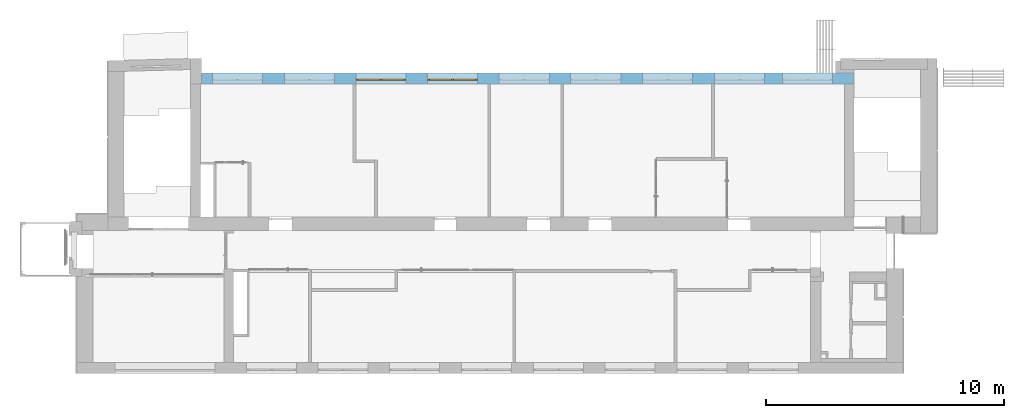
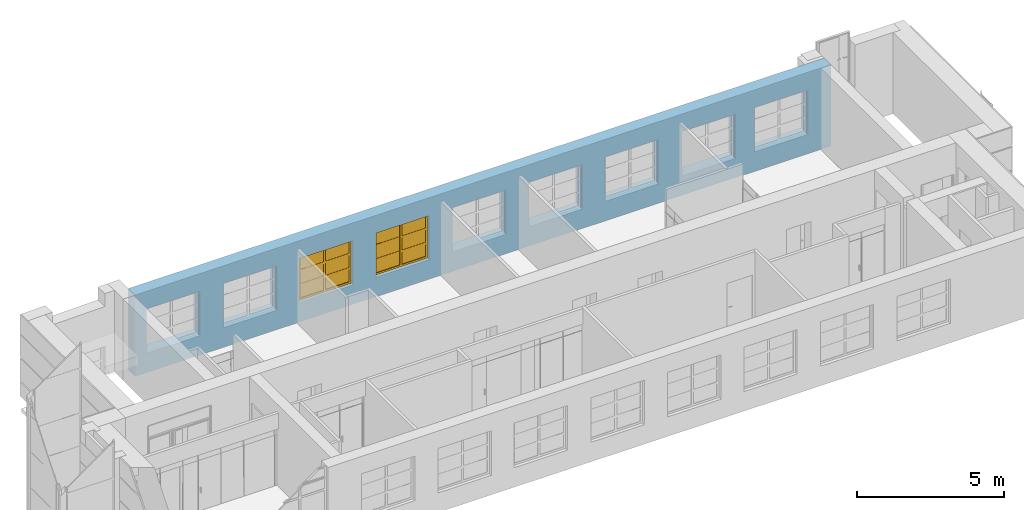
# One storey, part 52 of 66: 2 windows, 9 openings, plus 1 element that does not belong to this part.
"""IFC2X3 building model written with IfcOpenShell, lengths in millimetres."""

from ifc_helpers import new_model, entity, si_unit, converted_unit, derived_unit, direction, frame, frame_2d, origin, origin_2d_with_axis, place, context, subcontext, project, spatial, rectangle, extrude, face_set, surface_model, source, transform, mapped, material, material_list, layer, layer_set, layer_usage, type_object, type_shapes, element, fill, save


model = new_model("IFC2X3")

# Units and contexts
model_context = context("Model", 3, precision=0.01, world=origin(), true_north=direction((6.12303176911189e-17, 1.0)))
body_context = subcontext(model_context, "Body", "Model", "MODEL_VIEW")
ifc_project = project(units=[si_unit("LENGTHUNIT", "METRE", prefix="MILLI"), si_unit("AREAUNIT", "SQUARE_METRE"), si_unit("VOLUMEUNIT", "CUBIC_METRE"), converted_unit("PLANEANGLEUNIT", "DEGREE", entity("IfcRatioMeasure", 0.0174532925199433), si_unit("PLANEANGLEUNIT", "RADIAN"), dimensions=[0, 0, 0, 0, 0, 0, 0]), si_unit("MASSUNIT", "GRAM", prefix="KILO"), derived_unit("MASSDENSITYUNIT", [(si_unit("MASSUNIT", "GRAM", prefix="KILO"), 1), (si_unit("LENGTHUNIT", "METRE"), -3)]), si_unit("TIMEUNIT", "SECOND"), si_unit("FREQUENCYUNIT", "HERTZ"), si_unit("THERMODYNAMICTEMPERATUREUNIT", "DEGREE_CELSIUS"), derived_unit("THERMALTRANSMITTANCEUNIT", [(si_unit("MASSUNIT", "GRAM", prefix="KILO"), 1), (si_unit("THERMODYNAMICTEMPERATUREUNIT", "KELVIN"), -1), (si_unit("TIMEUNIT", "SECOND"), -3)]), derived_unit("VOLUMETRICFLOWRATEUNIT", [(si_unit("LENGTHUNIT", "METRE"), 3), (si_unit("TIMEUNIT", "SECOND"), -1)]), si_unit("ELECTRICCURRENTUNIT", "AMPERE"), si_unit("ELECTRICVOLTAGEUNIT", "VOLT"), si_unit("POWERUNIT", "WATT"), si_unit("FORCEUNIT", "NEWTON", prefix="KILO"), si_unit("ILLUMINANCEUNIT", "LUX"), si_unit("LUMINOUSFLUXUNIT", "LUMEN"), si_unit("LUMINOUSINTENSITYUNIT", "CANDELA"), derived_unit("USERDEFINED", [(si_unit("MASSUNIT", "GRAM", prefix="KILO"), -1), (si_unit("LENGTHUNIT", "METRE"), -2), (si_unit("TIMEUNIT", "SECOND"), 3), (si_unit("LUMINOUSFLUXUNIT", "LUMEN"), 1)]), derived_unit("LINEARVELOCITYUNIT", [(si_unit("LENGTHUNIT", "METRE"), 1), (si_unit("TIMEUNIT", "SECOND"), -1)]), si_unit("PRESSUREUNIT", "PASCAL"), derived_unit("USERDEFINED", [(si_unit("LENGTHUNIT", "METRE"), -2), (si_unit("MASSUNIT", "GRAM", prefix="KILO"), 1), (si_unit("TIMEUNIT", "SECOND"), -2)])], contexts=[model_context])

# Site, building, storey
site_placement = place(None, frame((-151.875543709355, 2715.0, 0.0)))
site = spatial("IfcSite", under=ifc_project, at=site_placement, Name="Surface", CompositionType="ELEMENT")
building_placement = place(site_placement, origin())
building = spatial("IfcBuilding", under=site, at=building_placement, CompositionType="ELEMENT")
storey_placement = place(building_placement, frame((0.0, 0.0, 3350.0)))
storey = spatial("IfcBuildingStorey", under=building, at=storey_placement, Name="2 korrus", CompositionType="ELEMENT", Elevation=3350.00000000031)

# Wall, openings, windows
ifc_material_1 = material(Name="Brick, Common")
ifc_layer_1 = layer(ifc_material_1, 440.0)
ifc_material_2 = material(Name="__Kips GN13_tava")
ifc_layer_2 = layer(ifc_material_2, 20.0)
ifc_layer_set = layer_set([ifc_layer_1, ifc_layer_2], Name="Basic Wall:VS-1")
ifc_layer_usage = layer_usage(ifc_layer_set, "AXIS2", "POSITIVE", -230.0)
wall_type = type_object("IfcWallType", Name="Basic Wall:VS-1", PredefinedType="STANDARD", material=ifc_layer_set)
wall_placement = place(storey_placement, frame((32372.6162682, 12380.0, 0.0), z_axis=(0.0, 0.0, 1.0), x_axis=(-1.0, 0.0, 0.0)))
wall = element("IfcWallStandardCase", 1, at=wall_placement, inside=storey, type_object=wall_type, material=ifc_layer_usage, Name="SEIN - 005", ObjectType="Basic Wall:VS-1", context=body_context, shape_type="SweptSolid", body=[
    extrude(rectangle(XDim=27372.5418693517, YDim=459.999999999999, at=frame_2d((13686.2709346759, 0.0), x_axis=(-1.0, 0.0))), origin(), (0.0, 0.0, 1.0), 3380.43203354),
])
opening_1_placement = place(wall_placement, frame((32372.6162682, 12380.0, 0.0), z_axis=(0.0, 0.0, 1.0), x_axis=(-1.0, 0.0, 0.0)))
element("IfcOpeningElement", 2, at=opening_1_placement, cuts=wall, Name="SEIN - 005", ObjectType="Opening", context=body_context, shape_type="SweptSolid", body=[
    extrude(rectangle(XDim=1850.0, YDim=2100.0, at=frame_2d((0.0, -5.6843418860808e-13), x_axis=(1.0, 0.0))), frame((6512.84935535, 13077.9, 1725.0), z_axis=(0.0, -1.0, 0.0), x_axis=(0.0, 0.0, 1.0)), (0.0, 0.0, 1.0), 1393.8),
])
opening_2_placement = place(wall_placement, frame((32372.6162682, 12380.0, 0.0), z_axis=(0.0, 0.0, 1.0), x_axis=(-1.0, 0.0, 0.0)))
element("IfcOpeningElement", 3, at=opening_2_placement, cuts=wall, Name="SEIN - 005", ObjectType="Opening", context=body_context, shape_type="SweptSolid", body=[
    extrude(rectangle(XDim=1850.0, YDim=2100.0, at=frame_2d((0.0, -1.02318153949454e-12), x_axis=(1.0, 0.0))), frame((9532.84935535, 13077.9, 1725.0), z_axis=(0.0, -1.0, 0.0), x_axis=(0.0, 0.0, 1.0)), (0.0, 0.0, 1.0), 1393.8),
])
opening_3_placement = place(wall_placement, frame((32372.6162682, 12380.0, 0.0), z_axis=(0.0, 0.0, 1.0), x_axis=(-1.0, 0.0, 0.0)))
opening_3 = element("IfcOpeningElement", 4, at=opening_3_placement, cuts=wall, Name="SEIN - 005", ObjectType="Opening", context=body_context, shape_type="SweptSolid", body=[
    extrude(rectangle(XDim=1850.0, YDim=2100.0, at=origin_2d_with_axis()), frame((12532.84935535, 13077.9, 1725.0), z_axis=(0.0, -1.0, 0.0), x_axis=(0.0, 0.0, 1.0)), (0.0, 0.0, 1.0), 1393.8),
])
opening_4_placement = place(wall_placement, frame((32372.6162682, 12380.0, 0.0), z_axis=(0.0, 0.0, 1.0), x_axis=(-1.0, 0.0, 0.0)))
opening_4 = element("IfcOpeningElement", 5, at=opening_4_placement, cuts=wall, Name="SEIN - 005", ObjectType="Opening", context=body_context, shape_type="SweptSolid", body=[
    extrude(rectangle(XDim=1850.0, YDim=2100.0, at=origin_2d_with_axis()), frame((15532.84935531, 13077.9, 1725.0), z_axis=(0.0, -1.0, 0.0), x_axis=(0.0, 0.0, 1.0)), (0.0, 0.0, 1.0), 1393.8),
])
opening_5_placement = place(wall_placement, frame((32372.6162682, 12380.0, 0.0), z_axis=(0.0, 0.0, 1.0), x_axis=(-1.0, 0.0, 0.0)))
element("IfcOpeningElement", 6, at=opening_5_placement, cuts=wall, Name="SEIN - 005", ObjectType="Opening", context=body_context, shape_type="SweptSolid", body=[
    extrude(rectangle(XDim=1850.0, YDim=2100.0, at=origin_2d_with_axis()), frame((18542.84935531, 13077.9, 1725.0), z_axis=(0.0, -1.0, 0.0), x_axis=(0.0, 0.0, 1.0)), (0.0, 0.0, 1.0), 1393.8),
])
opening_6_placement = place(wall_placement, frame((32372.6162682, 12380.0, 0.0), z_axis=(0.0, 0.0, 1.0), x_axis=(-1.0, 0.0, 0.0)))
element("IfcOpeningElement", 7, at=opening_6_placement, cuts=wall, Name="SEIN - 005", ObjectType="Opening", context=body_context, shape_type="SweptSolid", body=[
    extrude(rectangle(XDim=1850.0, YDim=2100.0, at=origin_2d_with_axis()), frame((21543.05309771, 13077.9, 1725.0), z_axis=(0.0, -1.0, 0.0), x_axis=(0.0, 0.0, 1.0)), (0.0, 0.0, 1.0), 1393.8),
])
opening_7_placement = place(wall_placement, frame((32372.6162682, 12380.0, 0.0), z_axis=(0.0, 0.0, 1.0), x_axis=(-1.0, 0.0, 0.0)))
element("IfcOpeningElement", 8, at=opening_7_placement, cuts=wall, Name="SEIN - 005", ObjectType="Opening", context=body_context, shape_type="SweptSolid", body=[
    extrude(rectangle(XDim=1850.0, YDim=2100.0, at=origin_2d_with_axis()), frame((24543.05309771, 13077.9, 1725.0), z_axis=(0.0, -1.0, 0.0), x_axis=(0.0, 0.0, 1.0)), (0.0, 0.0, 1.0), 1393.8),
])
opening_8_placement = place(wall_placement, frame((32372.6162682, 12380.0, 0.0), z_axis=(0.0, 0.0, 1.0), x_axis=(-1.0, 0.0, 0.0)))
element("IfcOpeningElement", 9, at=opening_8_placement, cuts=wall, Name="SEIN - 005", ObjectType="Opening", context=body_context, shape_type="SweptSolid", body=[
    extrude(rectangle(XDim=1850.0, YDim=2100.0, at=frame_2d((0.0, 4.32009983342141e-12), x_axis=(1.0, 0.0))), frame((27563.05309771, 13077.9, 1725.0), z_axis=(0.0, -1.0, 0.0), x_axis=(0.0, 0.0, 1.0)), (0.0, 0.0, 1.0), 1393.8),
])
opening_9_placement = place(wall_placement, frame((32372.6162682, 12380.0, 0.0), z_axis=(0.0, 0.0, 1.0), x_axis=(-1.0, 0.0, 0.0)))
element("IfcOpeningElement", 10, at=opening_9_placement, cuts=wall, Name="SEIN - 005", ObjectType="Opening", context=body_context, shape_type="SweptSolid", body=[
    extrude(rectangle(XDim=1850.0, YDim=2100.0, at=origin_2d_with_axis()), frame((30412.57293081, 13077.9, 1725.0), z_axis=(0.0, -1.0, 0.0), x_axis=(0.0, 0.0, 1.0)), (0.0, 0.0, 1.0), 1393.8),
])
ifc_material_3 = material(Name="Paint - Titanium White")
ifc_material_4 = material(Name="Paint - Dark Gray")
ifc_material_5 = material(Name="Glass - Clear Fast")
ifc_material_list_1 = material_list([ifc_material_3, ifc_material_4, ifc_material_5])
ifc_material_list_2 = material_list([ifc_material_3, ifc_material_4, ifc_material_5])
window_style = type_object("IfcWindowStyle", Name="Aken_1850x2100", ConstructionType="NOTDEFINED", OperationType="DOUBLE_PANEL_VERTICAL", ParameterTakesPrecedence=False, Sizeable=False, material=ifc_material_list_2)
shared_shape = source(origin(), body_context, "Body", "SurfaceModel", [
    surface_model("IfcFaceBasedSurfaceModel", [(80.0, -665.9, 1770.0), (80.0, -620.9, 1770.0), (0.0, -620.9, 1770.0), (0.0, -665.9, 1770.0), (80.0, -665.9, 80.0), (80.0, -620.9, 80.0), (80.0, -620.9, 1770.0), (80.0, -665.9, 1770.0), (80.0, -620.9, 1770.0), (80.0, -620.9, 80.0), (0.0, -620.9, 80.0), (0.0, -620.9, 1770.0), (0.0, -665.9, 1770.0), (0.0, -620.9, 1770.0), (0.0, -620.9, 80.0), (0.0, -665.9, 80.0), (80.0, -665.9, 1770.0), (0.0, -665.9, 1770.0), (0.0, -665.9, 80.0), (80.0, -665.9, 80.0), (0.0, -665.9, 80.0), (0.0, -620.9, 80.0), (80.0, -620.9, 80.0), (80.0, -665.9, 80.0), (2020.0, -665.9, 80.0), (2020.0, -620.9, 80.0), (2100.0, -620.9, 80.0), (2100.0, -665.9, 80.0), (2020.0, -665.9, 1770.0), (2020.0, -620.9, 1770.0), (2020.0, -620.9, 80.0), (2020.0, -665.9, 80.0), (2020.0, -620.9, 80.0), (2020.0, -620.9, 1770.0), (2100.0, -620.9, 1770.0), (2100.0, -620.9, 80.0), (2100.0, -665.9, 80.0), (2100.0, -620.9, 80.0), (2100.0, -620.9, 1770.0), (2100.0, -665.9, 1770.0), (2020.0, -665.9, 80.0), (2100.0, -665.9, 80.0), (2100.0, -665.9, 1770.0), (2020.0, -665.9, 1770.0), (2100.0, -665.9, 1770.0), (2100.0, -620.9, 1770.0), (2020.0, -620.9, 1770.0), (2020.0, -665.9, 1770.0), (1010.0, -665.9, 80.0), (1010.0, -620.9, 80.0), (1090.0, -620.9, 80.0), (1090.0, -665.9, 80.0), (1010.0, -665.9, 1770.0), (1010.0, -620.9, 1770.0), (1010.0, -620.9, 80.0), (1010.0, -665.9, 80.0), (1010.0, -620.9, 80.0), (1010.0, -620.9, 1770.0), (1090.0, -620.9, 1770.0), (1090.0, -620.9, 80.0), (1090.0, -665.9, 80.0), (1090.0, -620.9, 80.0), (1090.0, -620.9, 1770.0), (1090.0, -665.9, 1770.0), (1010.0, -665.9, 80.0), (1090.0, -665.9, 80.0), (1090.0, -665.9, 1770.0), (1010.0, -665.9, 1770.0), (1090.0, -665.9, 1770.0), (1090.0, -620.9, 1770.0), (1010.0, -620.9, 1770.0), (1010.0, -665.9, 1770.0), (80.0, -665.9, 80.0), (80.0, -620.9, 80.0), (0.0, -620.9, 80.0), (0.0, -665.9, 80.0), (1010.0, -665.9, 80.0), (1010.0, -620.9, 80.0), (80.0, -620.9, 80.0), (80.0, -665.9, 80.0), (80.0, -620.9, 80.0), (1010.0, -620.9, 80.0), (1090.0, -620.9, 80.0), (2020.0, -620.9, 80.0), (2100.0, -620.9, 80.0), (2100.0, -620.9, 0.0), (0.0, -620.9, 0.0), (0.0, -620.9, 80.0), (0.0, -665.9, 80.0), (0.0, -620.9, 80.0), (0.0, -620.9, 0.0), (0.0, -665.9, 0.0), (80.0, -665.9, 80.0), (0.0, -665.9, 80.0), (0.0, -665.9, 0.0), (2100.0, -665.9, 0.0), (2100.0, -665.9, 80.0), (2020.0, -665.9, 80.0), (1090.0, -665.9, 80.0), (1010.0, -665.9, 80.0), (1090.0, -665.9, 80.0), (1090.0, -620.9, 80.0), (1010.0, -620.9, 80.0), (1010.0, -665.9, 80.0), (2020.0, -665.9, 80.0), (2020.0, -620.9, 80.0), (1090.0, -620.9, 80.0), (1090.0, -665.9, 80.0), (2100.0, -665.9, 80.0), (2100.0, -620.9, 80.0), (2020.0, -620.9, 80.0), (2020.0, -665.9, 80.0), (2100.0, -665.9, 0.0), (2100.0, -620.9, 0.0), (2100.0, -620.9, 80.0), (2100.0, -665.9, 80.0), (0.0, -665.9, 0.0), (0.0, -620.9, 0.0), (2100.0, -620.9, 0.0), (2100.0, -665.9, 0.0), (1010.0, -665.9, 1770.0), (1010.0, -620.9, 1770.0), (1090.0, -620.9, 1770.0), (1090.0, -665.9, 1770.0), (80.0, -665.9, 1770.0), (80.0, -620.9, 1770.0), (1010.0, -620.9, 1770.0), (1010.0, -665.9, 1770.0), (1010.0, -620.9, 1770.0), (80.0, -620.9, 1770.0), (0.0, -620.9, 1770.0), (0.0, -620.9, 1850.0), (2100.0, -620.9, 1850.0), (2100.0, -620.9, 1770.0), (2020.0, -620.9, 1770.0), (1090.0, -620.9, 1770.0), (1090.0, -665.9, 1770.0), (1090.0, -620.9, 1770.0), (2020.0, -620.9, 1770.0), (2020.0, -665.9, 1770.0), (1010.0, -665.9, 1770.0), (1090.0, -665.9, 1770.0), (2020.0, -665.9, 1770.0), (2100.0, -665.9, 1770.0), (2100.0, -665.9, 1850.0), (0.0, -665.9, 1850.0), (0.0, -665.9, 1770.0), (80.0, -665.9, 1770.0), (0.0, -665.9, 1770.0), (0.0, -620.9, 1770.0), (80.0, -620.9, 1770.0), (80.0, -665.9, 1770.0), (0.0, -665.9, 1850.0), (0.0, -620.9, 1850.0), (0.0, -620.9, 1770.0), (0.0, -665.9, 1770.0), (2100.0, -665.9, 1850.0), (2100.0, -620.9, 1850.0), (0.0, -620.9, 1850.0), (0.0, -665.9, 1850.0), (2100.0, -665.9, 1770.0), (2100.0, -620.9, 1770.0), (2100.0, -620.9, 1850.0), (2100.0, -665.9, 1850.0), (2020.0, -665.9, 1770.0), (2020.0, -620.9, 1770.0), (2100.0, -620.9, 1770.0), (2100.0, -665.9, 1770.0), (80.0, -640.9, 590.0), (80.0, -630.9, 590.0), (1010.0, -630.9, 590.0), (1010.0, -640.9, 590.0), (80.0, -640.9, 670.0), (80.0, -630.9, 670.0), (80.0, -630.9, 590.0), (80.0, -640.9, 590.0), (80.0, -630.9, 590.0), (80.0, -630.9, 670.0), (1010.0, -630.9, 670.0), (1010.0, -630.9, 590.0), (1010.0, -640.9, 590.0), (1010.0, -630.9, 590.0), (1010.0, -630.9, 670.0), (1010.0, -640.9, 670.0), (80.0, -640.9, 590.0), (1010.0, -640.9, 590.0), (1010.0, -640.9, 670.0), (80.0, -640.9, 670.0), (1010.0, -640.9, 670.0), (1010.0, -630.9, 670.0), (80.0, -630.9, 670.0), (80.0, -640.9, 670.0), (80.0, -640.9, 1180.0), (80.0, -630.9, 1180.0), (1010.0, -630.9, 1180.0), (1010.0, -640.9, 1180.0), (80.0, -640.9, 1260.0), (80.0, -630.9, 1260.0), (80.0, -630.9, 1180.0), (80.0, -640.9, 1180.0), (80.0, -630.9, 1180.0), (80.0, -630.9, 1260.0), (1010.0, -630.9, 1260.0), (1010.0, -630.9, 1180.0), (1010.0, -640.9, 1180.0), (1010.0, -630.9, 1180.0), (1010.0, -630.9, 1260.0), (1010.0, -640.9, 1260.0), (80.0, -640.9, 1180.0), (1010.0, -640.9, 1180.0), (1010.0, -640.9, 1260.0), (80.0, -640.9, 1260.0), (1010.0, -640.9, 1260.0), (1010.0, -630.9, 1260.0), (80.0, -630.9, 1260.0), (80.0, -640.9, 1260.0), (1090.0, -640.9, 590.0), (1090.0, -630.9, 590.0), (2020.0, -630.9, 590.0), (2020.0, -640.9, 590.0), (1090.0, -640.9, 670.0), (1090.0, -630.9, 670.0), (1090.0, -630.9, 590.0), (1090.0, -640.9, 590.0), (1090.0, -630.9, 590.0), (1090.0, -630.9, 670.0), (2020.0, -630.9, 670.0), (2020.0, -630.9, 590.0), (2020.0, -640.9, 590.0), (2020.0, -630.9, 590.0), (2020.0, -630.9, 670.0), (2020.0, -640.9, 670.0), (1090.0, -640.9, 590.0), (2020.0, -640.9, 590.0), (2020.0, -640.9, 670.0), (1090.0, -640.9, 670.0), (2020.0, -640.9, 670.0), (2020.0, -630.9, 670.0), (1090.0, -630.9, 670.0), (1090.0, -640.9, 670.0), (1090.0, -640.9, 1180.0), (1090.0, -630.9, 1180.0), (2020.0, -630.9, 1180.0), (2020.0, -640.9, 1180.0), (1090.0, -640.9, 1260.0), (1090.0, -630.9, 1260.0), (1090.0, -630.9, 1180.0), (1090.0, -640.9, 1180.0), (1090.0, -630.9, 1180.0), (1090.0, -630.9, 1260.0), (2020.0, -630.9, 1260.0), (2020.0, -630.9, 1180.0), (2020.0, -640.9, 1180.0), (2020.0, -630.9, 1180.0), (2020.0, -630.9, 1260.0), (2020.0, -640.9, 1260.0), (1090.0, -640.9, 1180.0), (2020.0, -640.9, 1180.0), (2020.0, -640.9, 1260.0), (1090.0, -640.9, 1260.0), (2020.0, -640.9, 1260.0), (2020.0, -630.9, 1260.0), (1090.0, -630.9, 1260.0), (1090.0, -640.9, 1260.0)], [face_set([[[0, 1, 2, 3]]]), face_set([[[4, 5, 6, 7]]]), face_set([[[8, 9, 10, 11]]]), face_set([[[12, 13, 14, 15]]]), face_set([[[16, 17, 18, 19]]]), face_set([[[20, 21, 22, 23]]]), face_set([[[24, 25, 26, 27]]]), face_set([[[28, 29, 30, 31]]]), face_set([[[32, 33, 34, 35]]]), face_set([[[36, 37, 38, 39]]]), face_set([[[40, 41, 42, 43]]]), face_set([[[44, 45, 46, 47]]]), face_set([[[48, 49, 50, 51]]]), face_set([[[52, 53, 54, 55]]]), face_set([[[56, 57, 58, 59]]]), face_set([[[60, 61, 62, 63]]]), face_set([[[64, 65, 66, 67]]]), face_set([[[68, 69, 70, 71]]]), face_set([[[72, 73, 74, 75]]]), face_set([[[76, 77, 78, 79]]]), face_set([[[80, 81, 82, 83, 84, 85, 86, 87]]]), face_set([[[88, 89, 90, 91]]]), face_set([[[92, 93, 94, 95, 96, 97, 98, 99]]]), face_set([[[100, 101, 102, 103]]]), face_set([[[104, 105, 106, 107]]]), face_set([[[108, 109, 110, 111]]]), face_set([[[112, 113, 114, 115]]]), face_set([[[116, 117, 118, 119]]]), face_set([[[120, 121, 122, 123]]]), face_set([[[124, 125, 126, 127]]]), face_set([[[128, 129, 130, 131, 132, 133, 134, 135]]]), face_set([[[136, 137, 138, 139]]]), face_set([[[140, 141, 142, 143, 144, 145, 146, 147]]]), face_set([[[148, 149, 150, 151]]]), face_set([[[152, 153, 154, 155]]]), face_set([[[156, 157, 158, 159]]]), face_set([[[160, 161, 162, 163]]]), face_set([[[164, 165, 166, 167]]]), face_set([[[168, 169, 170, 171]]]), face_set([[[172, 173, 174, 175]]]), face_set([[[176, 177, 178, 179]]]), face_set([[[180, 181, 182, 183]]]), face_set([[[184, 185, 186, 187]]]), face_set([[[188, 189, 190, 191]]]), face_set([[[192, 193, 194, 195]]]), face_set([[[196, 197, 198, 199]]]), face_set([[[200, 201, 202, 203]]]), face_set([[[204, 205, 206, 207]]]), face_set([[[208, 209, 210, 211]]]), face_set([[[212, 213, 214, 215]]]), face_set([[[216, 217, 218, 219]]]), face_set([[[220, 221, 222, 223]]]), face_set([[[224, 225, 226, 227]]]), face_set([[[228, 229, 230, 231]]]), face_set([[[232, 233, 234, 235]]]), face_set([[[236, 237, 238, 239]]]), face_set([[[240, 241, 242, 243]]]), face_set([[[244, 245, 246, 247]]]), face_set([[[248, 249, 250, 251]]]), face_set([[[252, 253, 254, 255]]]), face_set([[[256, 257, 258, 259]]]), face_set([[[260, 261, 262, 263]]])]),
    surface_model("IfcFaceBasedSurfaceModel", [(80.0, -620.9, 1770.0), (80.0, -595.9, 1770.0), (0.0, -595.9, 1770.0), (0.0, -620.9, 1770.0), (80.0, -620.9, 80.0), (80.0, -595.9, 80.0), (80.0, -595.9, 1770.0), (80.0, -620.9, 1770.0), (80.0, -595.9, 1770.0), (80.0, -595.9, 80.0), (0.0, -595.9, 80.0), (0.0, -595.9, 1770.0), (0.0, -620.9, 1770.0), (0.0, -595.9, 1770.0), (0.0, -595.9, 80.0), (0.0, -620.9, 80.0), (80.0, -620.9, 1770.0), (0.0, -620.9, 1770.0), (0.0, -620.9, 80.0), (80.0, -620.9, 80.0), (0.0, -620.9, 80.0), (0.0, -595.9, 80.0), (80.0, -595.9, 80.0), (80.0, -620.9, 80.0), (2020.0, -620.9, 80.0), (2020.0, -595.9, 80.0), (2100.0, -595.9, 80.0), (2100.0, -620.9, 80.0), (2020.0, -620.9, 1770.0), (2020.0, -595.9, 1770.0), (2020.0, -595.9, 80.0), (2020.0, -620.9, 80.0), (2020.0, -595.9, 80.0), (2020.0, -595.9, 1770.0), (2100.0, -595.9, 1770.0), (2100.0, -595.9, 80.0), (2100.0, -620.9, 80.0), (2100.0, -595.9, 80.0), (2100.0, -595.9, 1770.0), (2100.0, -620.9, 1770.0), (2020.0, -620.9, 80.0), (2100.0, -620.9, 80.0), (2100.0, -620.9, 1770.0), (2020.0, -620.9, 1770.0), (2100.0, -620.9, 1770.0), (2100.0, -595.9, 1770.0), (2020.0, -595.9, 1770.0), (2020.0, -620.9, 1770.0), (1010.0, -620.9, 80.0), (1010.0, -595.9, 80.0), (1090.0, -595.9, 80.0), (1090.0, -620.9, 80.0), (1010.0, -620.9, 1770.0), (1010.0, -595.9, 1770.0), (1010.0, -595.9, 80.0), (1010.0, -620.9, 80.0), (1010.0, -595.9, 80.0), (1010.0, -595.9, 1770.0), (1090.0, -595.9, 1770.0), (1090.0, -595.9, 80.0), (1090.0, -620.9, 80.0), (1090.0, -595.9, 80.0), (1090.0, -595.9, 1770.0), (1090.0, -620.9, 1770.0), (1010.0, -620.9, 80.0), (1090.0, -620.9, 80.0), (1090.0, -620.9, 1770.0), (1010.0, -620.9, 1770.0), (1090.0, -620.9, 1770.0), (1090.0, -595.9, 1770.0), (1010.0, -595.9, 1770.0), (1010.0, -620.9, 1770.0), (80.0, -620.9, 80.0), (80.0, -595.9, 80.0), (0.0, -595.9, 80.0), (0.0, -620.9, 80.0), (1010.0, -620.9, 80.0), (1010.0, -595.9, 80.0), (80.0, -595.9, 80.0), (80.0, -620.9, 80.0), (80.0, -595.9, 80.0), (1010.0, -595.9, 80.0), (1090.0, -595.9, 80.0), (2020.0, -595.9, 80.0), (2100.0, -595.9, 80.0), (2100.0, -595.9, 0.0), (0.0, -595.9, 0.0), (0.0, -595.9, 80.0), (0.0, -620.9, 80.0), (0.0, -595.9, 80.0), (0.0, -595.9, 0.0), (0.0, -620.9, 0.0), (80.0, -620.9, 80.0), (0.0, -620.9, 80.0), (0.0, -620.9, 0.0), (2100.0, -620.9, 0.0), (2100.0, -620.9, 80.0), (2020.0, -620.9, 80.0), (1090.0, -620.9, 80.0), (1010.0, -620.9, 80.0), (1090.0, -620.9, 80.0), (1090.0, -595.9, 80.0), (1010.0, -595.9, 80.0), (1010.0, -620.9, 80.0), (2020.0, -620.9, 80.0), (2020.0, -595.9, 80.0), (1090.0, -595.9, 80.0), (1090.0, -620.9, 80.0), (2100.0, -620.9, 80.0), (2100.0, -595.9, 80.0), (2020.0, -595.9, 80.0), (2020.0, -620.9, 80.0), (2100.0, -620.9, 0.0), (2100.0, -595.9, 0.0), (2100.0, -595.9, 80.0), (2100.0, -620.9, 80.0), (0.0, -620.9, 0.0), (0.0, -595.9, 0.0), (2100.0, -595.9, 0.0), (2100.0, -620.9, 0.0), (1010.0, -620.9, 1770.0), (1010.0, -595.9, 1770.0), (1090.0, -595.9, 1770.0), (1090.0, -620.9, 1770.0), (80.0, -620.9, 1770.0), (80.0, -595.9, 1770.0), (1010.0, -595.9, 1770.0), (1010.0, -620.9, 1770.0), (1010.0, -595.9, 1770.0), (80.0, -595.9, 1770.0), (0.0, -595.9, 1770.0), (0.0, -595.9, 1850.0), (2100.0, -595.9, 1850.0), (2100.0, -595.9, 1770.0), (2020.0, -595.9, 1770.0), (1090.0, -595.9, 1770.0), (1090.0, -620.9, 1770.0), (1090.0, -595.9, 1770.0), (2020.0, -595.9, 1770.0), (2020.0, -620.9, 1770.0), (1010.0, -620.9, 1770.0), (1090.0, -620.9, 1770.0), (2020.0, -620.9, 1770.0), (2100.0, -620.9, 1770.0), (2100.0, -620.9, 1850.0), (0.0, -620.9, 1850.0), (0.0, -620.9, 1770.0), (80.0, -620.9, 1770.0), (0.0, -620.9, 1770.0), (0.0, -595.9, 1770.0), (80.0, -595.9, 1770.0), (80.0, -620.9, 1770.0), (0.0, -620.9, 1850.0), (0.0, -595.9, 1850.0), (0.0, -595.9, 1770.0), (0.0, -620.9, 1770.0), (2100.0, -620.9, 1850.0), (2100.0, -595.9, 1850.0), (0.0, -595.9, 1850.0), (0.0, -620.9, 1850.0), (2100.0, -620.9, 1770.0), (2100.0, -595.9, 1770.0), (2100.0, -595.9, 1850.0), (2100.0, -620.9, 1850.0), (2020.0, -620.9, 1770.0), (2020.0, -595.9, 1770.0), (2100.0, -595.9, 1770.0), (2100.0, -620.9, 1770.0), (80.0, -630.9, 590.0), (80.0, -600.9, 590.0), (1010.0, -600.9, 590.0), (1010.0, -630.9, 590.0), (80.0, -630.9, 670.0), (80.0, -600.9, 670.0), (80.0, -600.9, 590.0), (80.0, -630.9, 590.0), (80.0, -600.9, 590.0), (80.0, -600.9, 670.0), (1010.0, -600.9, 670.0), (1010.0, -600.9, 590.0), (1010.0, -630.9, 590.0), (1010.0, -600.9, 590.0), (1010.0, -600.9, 670.0), (1010.0, -630.9, 670.0), (80.0, -630.9, 590.0), (1010.0, -630.9, 590.0), (1010.0, -630.9, 670.0), (80.0, -630.9, 670.0), (1010.0, -630.9, 670.0), (1010.0, -600.9, 670.0), (80.0, -600.9, 670.0), (80.0, -630.9, 670.0), (80.0, -630.9, 1180.0), (80.0, -600.9, 1180.0), (1010.0, -600.9, 1180.0), (1010.0, -630.9, 1180.0), (80.0, -630.9, 1260.0), (80.0, -600.9, 1260.0), (80.0, -600.9, 1180.0), (80.0, -630.9, 1180.0), (80.0, -600.9, 1180.0), (80.0, -600.9, 1260.0), (1010.0, -600.9, 1260.0), (1010.0, -600.9, 1180.0), (1010.0, -630.9, 1180.0), (1010.0, -600.9, 1180.0), (1010.0, -600.9, 1260.0), (1010.0, -630.9, 1260.0), (80.0, -630.9, 1180.0), (1010.0, -630.9, 1180.0), (1010.0, -630.9, 1260.0), (80.0, -630.9, 1260.0), (1010.0, -630.9, 1260.0), (1010.0, -600.9, 1260.0), (80.0, -600.9, 1260.0), (80.0, -630.9, 1260.0), (1090.0, -630.9, 590.0), (1090.0, -600.9, 590.0), (2020.0, -600.9, 590.0), (2020.0, -630.9, 590.0), (1090.0, -630.9, 670.0), (1090.0, -600.9, 670.0), (1090.0, -600.9, 590.0), (1090.0, -630.9, 590.0), (1090.0, -600.9, 590.0), (1090.0, -600.9, 670.0), (2020.0, -600.9, 670.0), (2020.0, -600.9, 590.0), (2020.0, -630.9, 590.0), (2020.0, -600.9, 590.0), (2020.0, -600.9, 670.0), (2020.0, -630.9, 670.0), (1090.0, -630.9, 590.0), (2020.0, -630.9, 590.0), (2020.0, -630.9, 670.0), (1090.0, -630.9, 670.0), (2020.0, -630.9, 670.0), (2020.0, -600.9, 670.0), (1090.0, -600.9, 670.0), (1090.0, -630.9, 670.0), (1090.0, -630.9, 1180.0), (1090.0, -600.9, 1180.0), (2020.0, -600.9, 1180.0), (2020.0, -630.9, 1180.0), (1090.0, -630.9, 1260.0), (1090.0, -600.9, 1260.0), (1090.0, -600.9, 1180.0), (1090.0, -630.9, 1180.0), (1090.0, -600.9, 1180.0), (1090.0, -600.9, 1260.0), (2020.0, -600.9, 1260.0), (2020.0, -600.9, 1180.0), (2020.0, -630.9, 1180.0), (2020.0, -600.9, 1180.0), (2020.0, -600.9, 1260.0), (2020.0, -630.9, 1260.0), (1090.0, -630.9, 1180.0), (2020.0, -630.9, 1180.0), (2020.0, -630.9, 1260.0), (1090.0, -630.9, 1260.0), (2020.0, -630.9, 1260.0), (2020.0, -600.9, 1260.0), (1090.0, -600.9, 1260.0), (1090.0, -630.9, 1260.0)], [face_set([[[0, 1, 2, 3]]]), face_set([[[4, 5, 6, 7]]]), face_set([[[8, 9, 10, 11]]]), face_set([[[12, 13, 14, 15]]]), face_set([[[16, 17, 18, 19]]]), face_set([[[20, 21, 22, 23]]]), face_set([[[24, 25, 26, 27]]]), face_set([[[28, 29, 30, 31]]]), face_set([[[32, 33, 34, 35]]]), face_set([[[36, 37, 38, 39]]]), face_set([[[40, 41, 42, 43]]]), face_set([[[44, 45, 46, 47]]]), face_set([[[48, 49, 50, 51]]]), face_set([[[52, 53, 54, 55]]]), face_set([[[56, 57, 58, 59]]]), face_set([[[60, 61, 62, 63]]]), face_set([[[64, 65, 66, 67]]]), face_set([[[68, 69, 70, 71]]]), face_set([[[72, 73, 74, 75]]]), face_set([[[76, 77, 78, 79]]]), face_set([[[80, 81, 82, 83, 84, 85, 86, 87]]]), face_set([[[88, 89, 90, 91]]]), face_set([[[92, 93, 94, 95, 96, 97, 98, 99]]]), face_set([[[100, 101, 102, 103]]]), face_set([[[104, 105, 106, 107]]]), face_set([[[108, 109, 110, 111]]]), face_set([[[112, 113, 114, 115]]]), face_set([[[116, 117, 118, 119]]]), face_set([[[120, 121, 122, 123]]]), face_set([[[124, 125, 126, 127]]]), face_set([[[128, 129, 130, 131, 132, 133, 134, 135]]]), face_set([[[136, 137, 138, 139]]]), face_set([[[140, 141, 142, 143, 144, 145, 146, 147]]]), face_set([[[148, 149, 150, 151]]]), face_set([[[152, 153, 154, 155]]]), face_set([[[156, 157, 158, 159]]]), face_set([[[160, 161, 162, 163]]]), face_set([[[164, 165, 166, 167]]]), face_set([[[168, 169, 170, 171]]]), face_set([[[172, 173, 174, 175]]]), face_set([[[176, 177, 178, 179]]]), face_set([[[180, 181, 182, 183]]]), face_set([[[184, 185, 186, 187]]]), face_set([[[188, 189, 190, 191]]]), face_set([[[192, 193, 194, 195]]]), face_set([[[196, 197, 198, 199]]]), face_set([[[200, 201, 202, 203]]]), face_set([[[204, 205, 206, 207]]]), face_set([[[208, 209, 210, 211]]]), face_set([[[212, 213, 214, 215]]]), face_set([[[216, 217, 218, 219]]]), face_set([[[220, 221, 222, 223]]]), face_set([[[224, 225, 226, 227]]]), face_set([[[228, 229, 230, 231]]]), face_set([[[232, 233, 234, 235]]]), face_set([[[236, 237, 238, 239]]]), face_set([[[240, 241, 242, 243]]]), face_set([[[244, 245, 246, 247]]]), face_set([[[248, 249, 250, 251]]]), face_set([[[252, 253, 254, 255]]]), face_set([[[256, 257, 258, 259]]]), face_set([[[260, 261, 262, 263]]])]),
    surface_model("IfcFaceBasedSurfaceModel", [(1010.0, -630.9, 80.0), (1010.0, -630.9, 590.0), (80.0, -630.9, 590.0), (80.0, -630.9, 80.0), (1010.0, -610.9, 80.0), (80.0, -610.9, 80.0), (80.0, -610.9, 590.0), (1010.0, -610.9, 590.0), (1010.0, -630.9, 670.0), (1010.0, -630.9, 1180.0), (80.0, -630.9, 1180.0), (80.0, -630.9, 670.0), (1010.0, -610.9, 670.0), (80.0, -610.9, 670.0), (80.0, -610.9, 1180.0), (1010.0, -610.9, 1180.0), (1010.0, -630.9, 1260.0), (1010.0, -630.9, 1770.0), (80.0, -630.9, 1770.0), (80.0, -630.9, 1260.0), (1010.0, -610.9, 1260.0), (80.0, -610.9, 1260.0), (80.0, -610.9, 1770.0), (1010.0, -610.9, 1770.0), (2020.0, -630.9, 80.0), (2020.0, -630.9, 590.0), (1090.0, -630.9, 590.0), (1090.0, -630.9, 80.0), (2020.0, -610.9, 80.0), (1090.0, -610.9, 80.0), (1090.0, -610.9, 590.0), (2020.0, -610.9, 590.0), (2020.0, -630.9, 670.0), (2020.0, -630.9, 1180.0), (1090.0, -630.9, 1180.0), (1090.0, -630.9, 670.0), (2020.0, -610.9, 670.0), (1090.0, -610.9, 670.0), (1090.0, -610.9, 1180.0), (2020.0, -610.9, 1180.0), (2020.0, -630.9, 1260.0), (2020.0, -630.9, 1770.0), (1090.0, -630.9, 1770.0), (1090.0, -630.9, 1260.0), (2020.0, -610.9, 1260.0), (1090.0, -610.9, 1260.0), (1090.0, -610.9, 1770.0), (2020.0, -610.9, 1770.0)], [face_set([[[0, 1, 2, 3]]]), face_set([[[4, 5, 6, 7]]]), face_set([[[8, 9, 10, 11]]]), face_set([[[12, 13, 14, 15]]]), face_set([[[16, 17, 18, 19]]]), face_set([[[20, 21, 22, 23]]]), face_set([[[24, 25, 26, 27]]]), face_set([[[28, 29, 30, 31]]]), face_set([[[32, 33, 34, 35]]]), face_set([[[36, 37, 38, 39]]]), face_set([[[40, 41, 42, 43]]]), face_set([[[44, 45, 46, 47]]])]),
])
type_shapes(window_style, [shared_shape])
window_1_placement = place(opening_3_placement, frame((13582.84935535, 11684.1, 800.0), z_axis=(0.0, 0.0, 1.0), x_axis=(-1.0, 0.0, 0.0)))
window_1 = element("IfcWindow", 11, at=window_1_placement, inside=storey, type_object=window_style, material=ifc_material_list_1, Name="Aken_1850x2100:Aken_1850x2100", ObjectType="Aken_1850x2100", OverallHeight=2100.0, OverallWidth=1850.0, context=body_context, shape_type="MappedRepresentation", body=[
    mapped(shared_shape, transform((0.0, 0.0, 0.0), scale=1.0)),
])
fill(opening_3, window_1)
ifc_material_list_3 = material_list([ifc_material_3, ifc_material_4, ifc_material_5])
window_2_placement = place(opening_4_placement, frame((16582.84935531, 11684.1, 800.0), z_axis=(0.0, 0.0, 1.0), x_axis=(-1.0, 0.0, 0.0)))
window_2 = element("IfcWindow", 12, at=window_2_placement, inside=storey, type_object=window_style, material=ifc_material_list_3, Name="Aken_1850x2100:Aken_1850x2100", ObjectType="Aken_1850x2100", OverallHeight=2100.0, OverallWidth=1850.0, context=body_context, shape_type="MappedRepresentation", body=[
    mapped(shared_shape, transform((0.0, 0.0, 0.0), scale=1.0)),
])
fill(opening_4, window_2)

save(model, "model.ifc")
